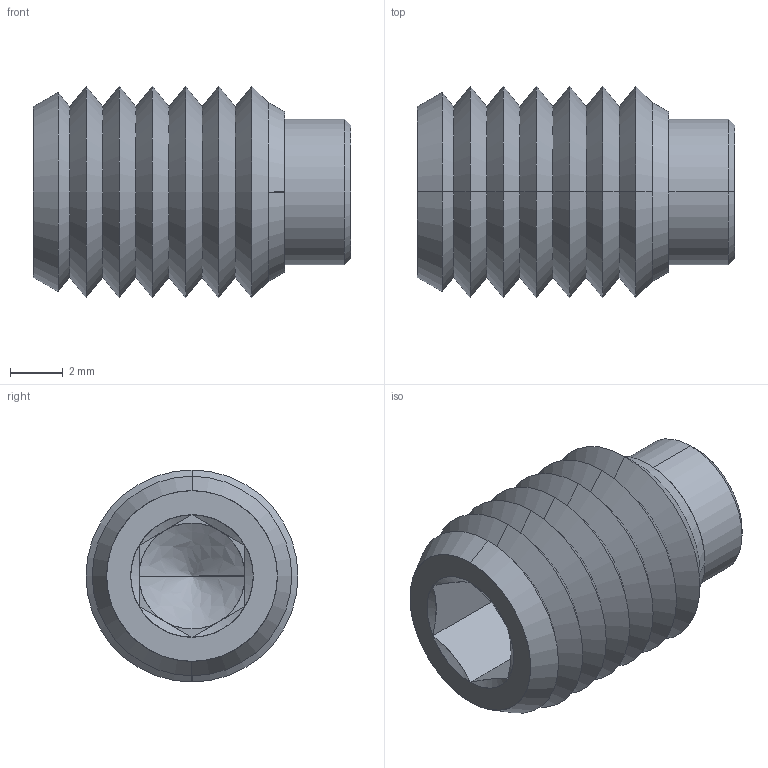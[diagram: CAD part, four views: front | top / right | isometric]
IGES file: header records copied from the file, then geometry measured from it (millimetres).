
Start section: SolidWorks IGES file using analytic representation for surfaces
Global section: file name: C:\Users\IanO\Desktop\P0120_v2_230406\P0120_v2_20230506_IGES\P0120.080-012.igs; native system: SolidWorks 2019; preprocessor: SolidWorks 2019; author: IanO; date: 230406.142423; units: millimetre
Bounding box: 12 x 8 x 8 mm (x, y, z)
Surface area: 615.5 mm2 (no closed solid volume)
Topology: 0 solids, 0 shells, 61 faces, 502 edges, 500 vertices
Faces by surface type: revolution 44, bspline 17
